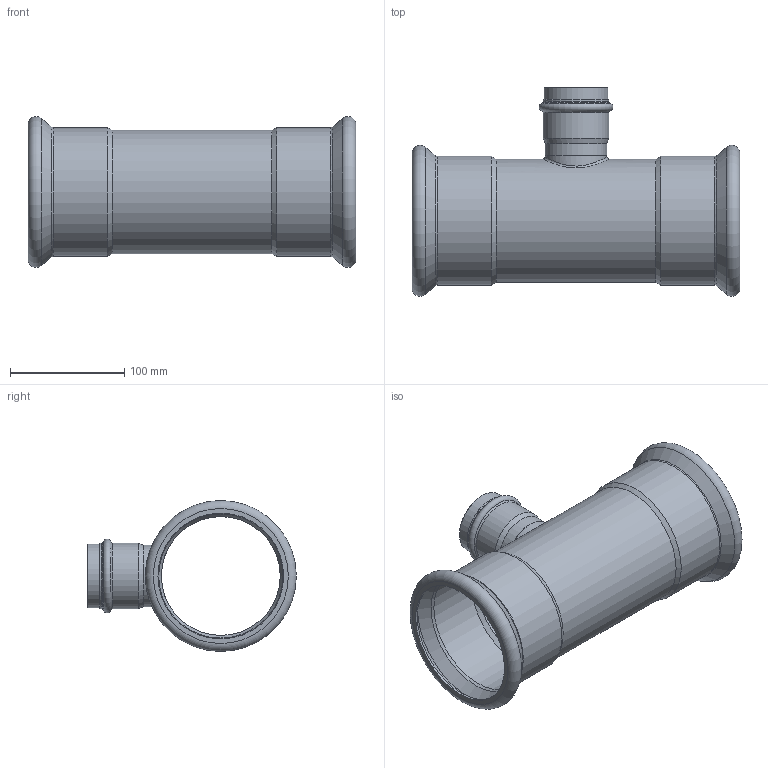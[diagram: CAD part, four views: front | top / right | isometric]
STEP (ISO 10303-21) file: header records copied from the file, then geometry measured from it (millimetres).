
FILE_DESCRIPTION((''),'2;1');
FILE_NAME('G:\Nirosan-Schmiedefeld\Technics\CAD\Bauteile VA\108\6913010854108(1).stp','2009-05-08T09:42:30',('herberg'),(''),'Autodesk Inventor 2009','Autodesk Inventor 2009','');
FILE_SCHEMA(('AUTOMOTIVE_DESIGN { 1 0 10303 214 1 1 1 1 }'));
Length unit declared in the file: millimetre
Products named in the file (3): 6913010854108(1); LM_6913010854108(0); 6924354HM(1)
Assembly tree (2 placements, depth 2):
  6913010854108(1)
    LM_6913010854108(0)
    6924354HM(1)
Bounding box: 287 x 182.6 x 132.2 mm (x, y, z)
Volume: 227358.9 mm3; surface area: 236266.8 mm2
Topology: 2 solids, 2 shells, 53 faces, 107 edges, 60 vertices
Faces by surface type: cylinder 17, cone 13, bspline 9, plane 7, torus 7
Full cylindrical faces by diameter (mm): 50 x1, 51 x1, 54 x2, 54.35 x2, 55.95 x1, 57.35 x2, 104 x1, 108 x1, 108.7 x2, 110 x2, 112.7 x2
Entity records: 2937 total; most frequent: CARTESIAN_POINT 1967, DIRECTION 200, ORIENTED_EDGE 112, EDGE_LOOP 106, AXIS2_PLACEMENT_3D 100, EDGE_CURVE 56, VERTEX_POINT 54, FACE_OUTER_BOUND 53
